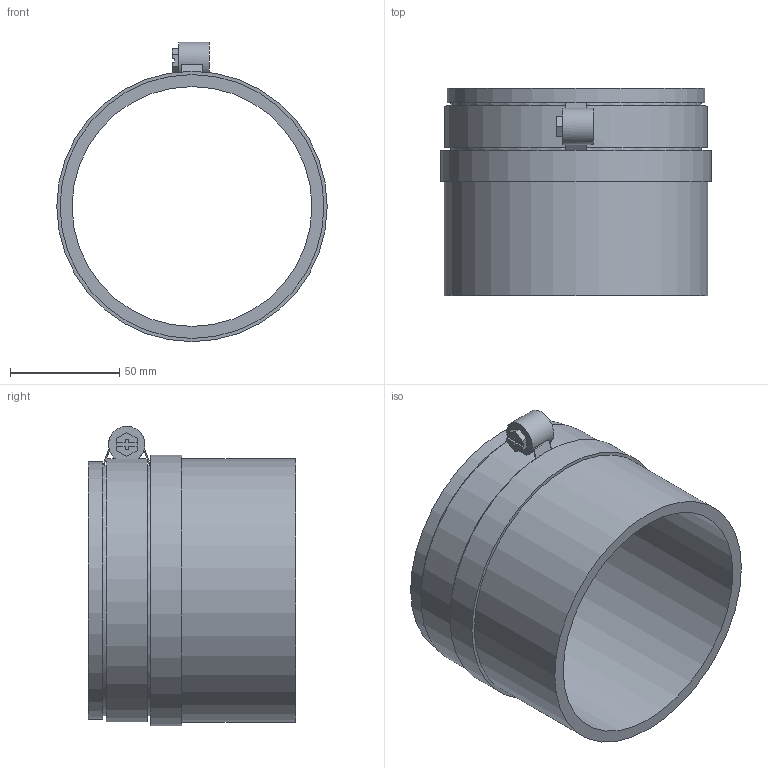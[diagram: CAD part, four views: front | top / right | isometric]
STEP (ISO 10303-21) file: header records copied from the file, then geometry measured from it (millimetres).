
FILE_DESCRIPTION( ( 'STEP AP214' ), '1' );
FILE_NAME( 'C:/Users/ilukic/Documents/ex/gebaudeentwasserung/silent_pp/Geberit SilentPP adapter sleeve to cast iron/390595.stp', '2020-03-26T18:44:41', ( '' ), ( '' ), ' ', 'PARTsolutions', ' ' );
FILE_SCHEMA( ( 'AUTOMOTIVE_DESIGN { 1 0 10303 214 1 1 1 1 }' ) );
Length unit declared in the file: millimetre
Products named in the file (1): _390595
Bounding box: 124.03 x 95 x 137.3 mm (x, y, z)
Volume: 194084.8 mm3; surface area: 78732.4 mm2
Topology: 1 solids, 1 shells, 51 faces, 140 edges, 92 vertices
Faces by surface type: plane 42, cylinder 9
Full cylindrical faces by diameter (mm): 110 x1, 114.95 x2, 117.975 x1, 121 x2, 124.025 x1
Entity records: 1974 total; most frequent: CARTESIAN_POINT 287, ORIENTED_EDGE 256, DIRECTION 254, EDGE_CURVE 128, LINE 100, VECTOR 100, VERTEX_POINT 88, AXIS2_PLACEMENT_3D 77
